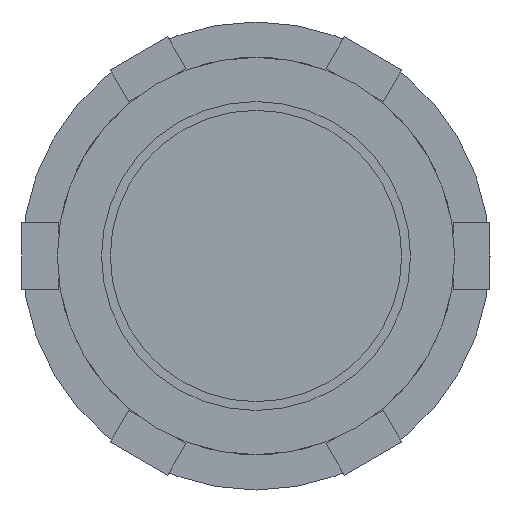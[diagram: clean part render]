
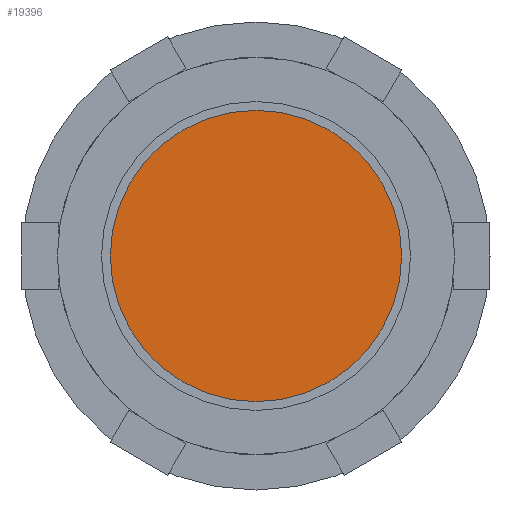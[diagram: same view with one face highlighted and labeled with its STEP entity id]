
A CAD part, left-side view. The second image highlights one B-rep face of the part: STEP entity #19396.
In plain terms, the highlighted planar face has unit normal (-1, 0, 0).
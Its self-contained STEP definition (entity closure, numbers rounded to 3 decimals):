
#19271 = CYLINDRICAL_SURFACE('',#19272,6.6);
#19272 = AXIS2_PLACEMENT_3D('',#19273,#19274,#19275);
#19273 = CARTESIAN_POINT('',(-64.07,-49.893,-53.918));
#19274 = DIRECTION('',(1.,0.,0.));
#19275 = DIRECTION('',(-0.,1.,0.));
#19342 = VERTEX_POINT('',#19343);
#19343 = CARTESIAN_POINT('',(-64.,-43.293,-53.918));
#19366 = EDGE_CURVE('',#19342,#19342,#19367,.T.);
#19367 = SURFACE_CURVE('',#19368,(#19373,#19380),.PCURVE_S1.);
#19368 = CIRCLE('',#19369,6.6);
#19369 = AXIS2_PLACEMENT_3D('',#19370,#19371,#19372);
#19370 = CARTESIAN_POINT('',(-64.,-49.893,-53.918));
#19371 = DIRECTION('',(1.,0.,0.));
#19372 = DIRECTION('',(-0.,1.,0.));
#19373 = PCURVE('',#19271,#19374);
#19374 = DEFINITIONAL_REPRESENTATION('',(#19375),#19379);
#19375 = LINE('',#19376,#19377);
#19376 = CARTESIAN_POINT('',(0.,0.07));
#19377 = VECTOR('',#19378,1.);
#19378 = DIRECTION('',(1.,0.));
#19379 = ( GEOMETRIC_REPRESENTATION_CONTEXT(2) 
PARAMETRIC_REPRESENTATION_CONTEXT() REPRESENTATION_CONTEXT('2D SPACE',''
  ) );
#19380 = PCURVE('',#19381,#19386);
#19381 = PLANE('',#19382);
#19382 = AXIS2_PLACEMENT_3D('',#19383,#19384,#19385);
#19383 = CARTESIAN_POINT('',(-64.,-49.893,-53.918));
#19384 = DIRECTION('',(1.,0.,0.));
#19385 = DIRECTION('',(-0.,1.,0.));
#19386 = DEFINITIONAL_REPRESENTATION('',(#19387),#19391);
#19387 = CIRCLE('',#19388,6.6);
#19388 = AXIS2_PLACEMENT_2D('',#19389,#19390);
#19389 = CARTESIAN_POINT('',(0.,0.));
#19390 = DIRECTION('',(1.,0.));
#19391 = ( GEOMETRIC_REPRESENTATION_CONTEXT(2) 
PARAMETRIC_REPRESENTATION_CONTEXT() REPRESENTATION_CONTEXT('2D SPACE',''
  ) );
#19396 = ADVANCED_FACE('',(#19397),#19381,.F.);
#19397 = FACE_BOUND('',#19398,.F.);
#19398 = EDGE_LOOP('',(#19399));
#19399 = ORIENTED_EDGE('',*,*,#19366,.T.);
